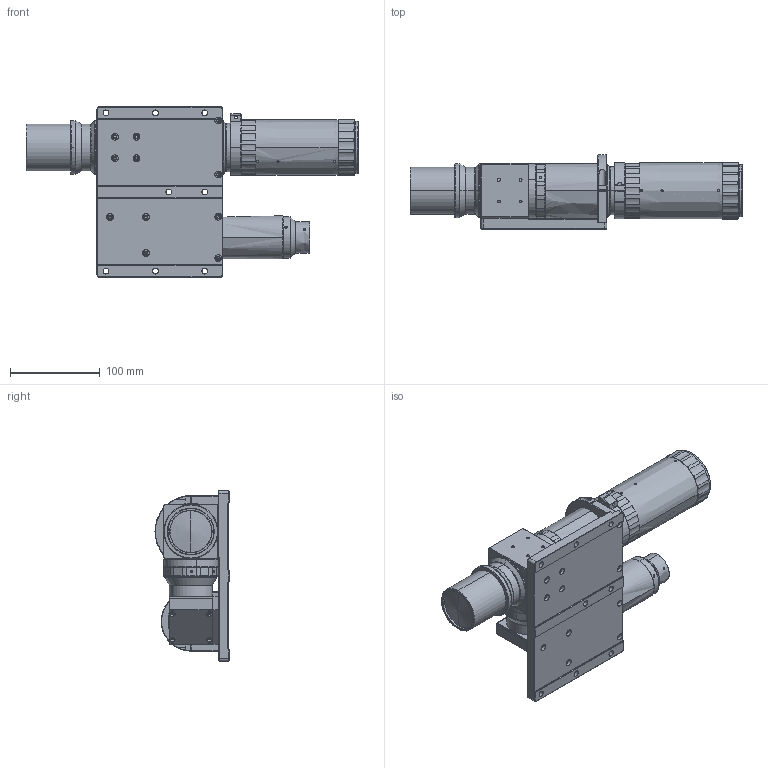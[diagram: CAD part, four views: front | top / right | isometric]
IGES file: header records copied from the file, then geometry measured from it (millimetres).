
Start section: SolidWorks IGES file using analytic representation for surfaces
Global section: file name: HD:\BaiduSyncdisk\1-产品  2022-new\DTCA（2021.1.7.整体考过来）\DTCA\35F 系列-\--35F大倍率--\4X-DTCA35F-11-G (光栏：MA266-00-01)\DTCA35F-11-G  V3 升级优化\DTCA35F-11C-G-M58-ALV3 - V6  （自已设计的照明系统发光面直径28）-光源调节光栏改成与成像光栏位一样---\3D\新建文件夹\DTCA35F-11C-G-M58-ALV3(28); native system: .IGS; preprocessor: SolidWorks 2017; author: lenovo; date: 221219.114250; units: millimetre
Bounding box: 369.4 x 82.53 x 190 mm (x, y, z)
Surface area: 235184.8 mm2 (no closed solid volume)
Topology: 0 solids, 0 shells, 1387 faces, 20749 edges, 20729 vertices
Faces by surface type: revolution 954, bspline 433
